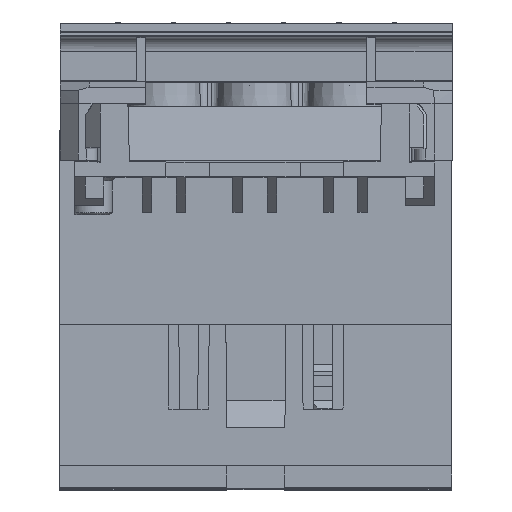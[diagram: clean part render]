
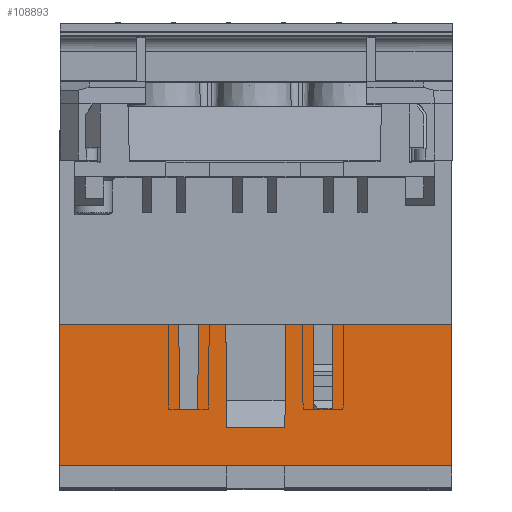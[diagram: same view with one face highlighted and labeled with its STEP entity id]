
A CAD part, top view. The second image highlights one B-rep face of the part: STEP entity #108893.
In plain terms, the highlighted planar face has unit normal (0, -0.009, 1).
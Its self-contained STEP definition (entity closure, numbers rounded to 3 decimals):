
#1182 = LINE ( 'NONE', #34883, #122617 ) ;
#2574 = LINE ( 'NONE', #78735, #124014 ) ;
#2596 = VERTEX_POINT ( 'NONE', #56435 ) ;
#2873 = EDGE_CURVE ( 'NONE', #144002, #73724, #103891, .T. ) ;
#7046 = EDGE_CURVE ( 'NONE', #45203, #143877, #110684, .T. ) ;
#11304 = VERTEX_POINT ( 'NONE', #101402 ) ;
#13662 = VERTEX_POINT ( 'NONE', #48834 ) ;
#16217 = DIRECTION ( 'NONE',  ( -1., 0., 0. ) ) ;
#16457 = VECTOR ( 'NONE', #39685, 1000. ) ;
#17540 = CARTESIAN_POINT ( 'NONE',  ( -10.602, -4., 200.004 ) ) ;
#17577 = LINE ( 'NONE', #67911, #48872 ) ;
#17665 = CARTESIAN_POINT ( 'NONE',  ( -27., -23.5, 199.833 ) ) ;
#18881 = CARTESIAN_POINT ( 'NONE',  ( -4.003, -18.18, 199.88 ) ) ;
#19024 = VECTOR ( 'NONE', #97658, 1000. ) ;
#19237 = EDGE_CURVE ( 'NONE', #113054, #120450, #124163, .T. ) ;
#21402 = CARTESIAN_POINT ( 'NONE',  ( -4., -23.5, 199.833 ) ) ;
#21763 = VECTOR ( 'NONE', #114277, 1000. ) ;
#21953 = EDGE_CURVE ( 'NONE', #144002, #13662, #121801, .T. ) ;
#23393 = ORIENTED_EDGE ( 'NONE', *, *, #133038, .T. ) ;
#25173 = AXIS2_PLACEMENT_3D ( 'NONE', #108950, #37930, #120250 ) ;
#26076 = VECTOR ( 'NONE', #37891, 1000. ) ;
#26979 = VERTEX_POINT ( 'NONE', #27962 ) ;
#27037 = CARTESIAN_POINT ( 'NONE',  ( -26., -4., 200.004 ) ) ;
#27962 = CARTESIAN_POINT ( 'NONE',  ( 27., -4., 200.004 ) ) ;
#34883 = CARTESIAN_POINT ( 'NONE',  ( -26., -4., 200.004 ) ) ;
#36316 = LINE ( 'NONE', #39766, #87815 ) ;
#37383 = CARTESIAN_POINT ( 'NONE',  ( 4., -23.5, 199.833 ) ) ;
#37891 = DIRECTION ( 'NONE',  ( 1., 0., 0. ) ) ;
#37930 = DIRECTION ( 'NONE',  ( 0., -0.009, 1. ) ) ;
#39187 = CARTESIAN_POINT ( 'NONE',  ( 8., -15.7, 199.902 ) ) ;
#39685 = DIRECTION ( 'NONE',  ( -0.009, 1., 0.009 ) ) ;
#39766 = CARTESIAN_POINT ( 'NONE',  ( -26., -4., 200.004 ) ) ;
#40627 = EDGE_CURVE ( 'NONE', #2596, #143877, #1182, .T. ) ;
#41086 = ORIENTED_EDGE ( 'NONE', *, *, #127214, .T. ) ;
#45203 = VERTEX_POINT ( 'NONE', #128610 ) ;
#45645 = EDGE_CURVE ( 'NONE', #140331, #120880, #64904, .T. ) ;
#48824 = LINE ( 'NONE', #69106, #81901 ) ;
#48834 = CARTESIAN_POINT ( 'NONE',  ( 4.003, -18.18, 199.88 ) ) ;
#48872 = VECTOR ( 'NONE', #55564, 1000. ) ;
#51404 = LINE ( 'NONE', #104003, #21763 ) ;
#52877 = DIRECTION ( 'NONE',  ( -0.009, -1., -0.009 ) ) ;
#55516 = VECTOR ( 'NONE', #52877, 1000. ) ;
#55564 = DIRECTION ( 'NONE',  ( 1., 0., 0. ) ) ;
#56435 = CARTESIAN_POINT ( 'NONE',  ( -27., -4., 200.004 ) ) ;
#57034 = LINE ( 'NONE', #86170, #128825 ) ;
#60205 = ORIENTED_EDGE ( 'NONE', *, *, #40627, .F. ) ;
#61237 = VECTOR ( 'NONE', #77040, 1000. ) ;
#62109 = CARTESIAN_POINT ( 'NONE',  ( -4.127, -4., 200.004 ) ) ;
#62479 = ORIENTED_EDGE ( 'NONE', *, *, #21953, .T. ) ;
#62495 = DIRECTION ( 'NONE',  ( 1., 0., 0. ) ) ;
#63625 = EDGE_CURVE ( 'NONE', #95977, #84990, #140563, .T. ) ;
#64904 = LINE ( 'NONE', #18881, #61237 ) ;
#66058 = VERTEX_POINT ( 'NONE', #17665 ) ;
#67698 = ORIENTED_EDGE ( 'NONE', *, *, #7046, .T. ) ;
#67911 = CARTESIAN_POINT ( 'NONE',  ( -26., -4., 200.004 ) ) ;
#69069 = ORIENTED_EDGE ( 'NONE', *, *, #148137, .T. ) ;
#69106 = CARTESIAN_POINT ( 'NONE',  ( -26., -15.7, 199.902 ) ) ;
#69715 = DIRECTION ( 'NONE',  ( -1., 0., 0. ) ) ;
#71979 = EDGE_CURVE ( 'NONE', #97381, #26979, #17577, .T. ) ;
#73724 = VERTEX_POINT ( 'NONE', #135865 ) ;
#73975 = EDGE_CURVE ( 'NONE', #84990, #26979, #2574, .T. ) ;
#77040 = DIRECTION ( 'NONE',  ( -0.009, 1., 0.009 ) ) ;
#77804 = DIRECTION ( 'NONE',  ( -0.009, -1., -0.009 ) ) ;
#78735 = CARTESIAN_POINT ( 'NONE',  ( 27., 18.5, 200.2 ) ) ;
#78752 = EDGE_CURVE ( 'NONE', #11304, #123286, #113880, .T. ) ;
#81901 = VECTOR ( 'NONE', #127246, 1000. ) ;
#82403 = ORIENTED_EDGE ( 'NONE', *, *, #78752, .T. ) ;
#82481 = CARTESIAN_POINT ( 'NONE',  ( 8., -15.7, 199.902 ) ) ;
#84200 = EDGE_CURVE ( 'NONE', #120450, #45203, #48824, .T. ) ;
#84245 = PLANE ( 'NONE',  #25173 ) ;
#84395 = EDGE_LOOP ( 'NONE', ( #60205, #93222, #23393, #117153, #86932, #111364, #87724, #41086, #82403, #89390, #117462, #62479, #69069, #88264, #87699, #102313, #113911, #67698 ) ) ;
#84990 = VERTEX_POINT ( 'NONE', #86771 ) ;
#86170 = CARTESIAN_POINT ( 'NONE',  ( -26., -18.18, 199.88 ) ) ;
#86334 = VERTEX_POINT ( 'NONE', #21402 ) ;
#86500 = CARTESIAN_POINT ( 'NONE',  ( -7.722, 16.2, 200.18 ) ) ;
#86771 = CARTESIAN_POINT ( 'NONE',  ( 27., -23.5, 199.833 ) ) ;
#86932 = ORIENTED_EDGE ( 'NONE', *, *, #63625, .T. ) ;
#87699 = ORIENTED_EDGE ( 'NONE', *, *, #92647, .F. ) ;
#87724 = ORIENTED_EDGE ( 'NONE', *, *, #71979, .F. ) ;
#87815 = VECTOR ( 'NONE', #144765, 1000. ) ;
#88137 = VECTOR ( 'NONE', #69715, 1000. ) ;
#88264 = ORIENTED_EDGE ( 'NONE', *, *, #45645, .T. ) ;
#88483 = VECTOR ( 'NONE', #129411, 1000. ) ;
#89390 = ORIENTED_EDGE ( 'NONE', *, *, #135110, .T. ) ;
#92647 = EDGE_CURVE ( 'NONE', #113054, #120880, #36316, .T. ) ;
#92851 = CARTESIAN_POINT ( 'NONE',  ( -10.5, -15.7, 199.902 ) ) ;
#93222 = ORIENTED_EDGE ( 'NONE', *, *, #99980, .T. ) ;
#94575 = DIRECTION ( 'NONE',  ( 1., 0., 0. ) ) ;
#94813 = VECTOR ( 'NONE', #77804, 1000. ) ;
#95977 = VERTEX_POINT ( 'NONE', #134479 ) ;
#97381 = VERTEX_POINT ( 'NONE', #98306 ) ;
#97658 = DIRECTION ( 'NONE',  ( 1., 0., 0. ) ) ;
#98306 = CARTESIAN_POINT ( 'NONE',  ( 10.602, -4., 200.004 ) ) ;
#98885 = CARTESIAN_POINT ( 'NONE',  ( -4.003, -18.18, 199.88 ) ) ;
#99980 = EDGE_CURVE ( 'NONE', #2596, #66058, #110467, .T. ) ;
#101402 = CARTESIAN_POINT ( 'NONE',  ( 10.5, -15.7, 199.902 ) ) ;
#101411 = CARTESIAN_POINT ( 'NONE',  ( 4.127, -4., 200.004 ) ) ;
#102313 = ORIENTED_EDGE ( 'NONE', *, *, #19237, .T. ) ;
#102401 = CARTESIAN_POINT ( 'NONE',  ( -8., -15.7, 199.902 ) ) ;
#102668 = EDGE_CURVE ( 'NONE', #86334, #95977, #51404, .T. ) ;
#103891 = LINE ( 'NONE', #27037, #116704 ) ;
#104003 = CARTESIAN_POINT ( 'NONE',  ( -26., -23.5, 199.833 ) ) ;
#108893 = ADVANCED_FACE ( 'NONE', ( #133673 ), #84245, .T. ) ;
#108950 = CARTESIAN_POINT ( 'NONE',  ( -26., 18.5, 200.2 ) ) ;
#110467 = LINE ( 'NONE', #125293, #119762 ) ;
#110684 = LINE ( 'NONE', #92851, #88483 ) ;
#111032 = CARTESIAN_POINT ( 'NONE',  ( 4.303, 16.2, 200.18 ) ) ;
#111364 = ORIENTED_EDGE ( 'NONE', *, *, #73975, .T. ) ;
#113054 = VERTEX_POINT ( 'NONE', #149833 ) ;
#113401 = DIRECTION ( 'NONE',  ( -0.009, -1., -0.009 ) ) ;
#113880 = LINE ( 'NONE', #128384, #88137 ) ;
#113911 = ORIENTED_EDGE ( 'NONE', *, *, #84200, .T. ) ;
#114277 = DIRECTION ( 'NONE',  ( 1., 0., 0. ) ) ;
#114519 = DIRECTION ( 'NONE',  ( 0., -1., -0.009 ) ) ;
#116704 = VECTOR ( 'NONE', #62495, 1000. ) ;
#117153 = ORIENTED_EDGE ( 'NONE', *, *, #102668, .T. ) ;
#117462 = ORIENTED_EDGE ( 'NONE', *, *, #2873, .F. ) ;
#117776 = LINE ( 'NONE', #39187, #16457 ) ;
#119762 = VECTOR ( 'NONE', #114519, 1000. ) ;
#120250 = DIRECTION ( 'NONE',  ( 0., -1., -0.009 ) ) ;
#120450 = VERTEX_POINT ( 'NONE', #102401 ) ;
#120880 = VERTEX_POINT ( 'NONE', #62109 ) ;
#121801 = LINE ( 'NONE', #111032, #55516 ) ;
#122617 = VECTOR ( 'NONE', #94575, 1000. ) ;
#123286 = VERTEX_POINT ( 'NONE', #82481 ) ;
#124014 = VECTOR ( 'NONE', #137913, 1000. ) ;
#124163 = LINE ( 'NONE', #86500, #94813 ) ;
#125293 = CARTESIAN_POINT ( 'NONE',  ( -27., 18.5, 200.2 ) ) ;
#127102 = LINE ( 'NONE', #137034, #149440 ) ;
#127214 = EDGE_CURVE ( 'NONE', #97381, #11304, #127102, .T. ) ;
#127246 = DIRECTION ( 'NONE',  ( -1., 0., 0. ) ) ;
#128384 = CARTESIAN_POINT ( 'NONE',  ( -26., -15.7, 199.902 ) ) ;
#128610 = CARTESIAN_POINT ( 'NONE',  ( -10.5, -15.7, 199.902 ) ) ;
#128825 = VECTOR ( 'NONE', #16217, 1000. ) ;
#129411 = DIRECTION ( 'NONE',  ( -0.009, 1., 0.009 ) ) ;
#133038 = EDGE_CURVE ( 'NONE', #66058, #86334, #138279, .T. ) ;
#133673 = FACE_OUTER_BOUND ( 'NONE', #84395, .T. ) ;
#134130 = CARTESIAN_POINT ( 'NONE',  ( -26., -23.5, 199.833 ) ) ;
#134479 = CARTESIAN_POINT ( 'NONE',  ( 4., -23.5, 199.833 ) ) ;
#135110 = EDGE_CURVE ( 'NONE', #123286, #73724, #117776, .T. ) ;
#135865 = CARTESIAN_POINT ( 'NONE',  ( 7.898, -4., 200.004 ) ) ;
#137034 = CARTESIAN_POINT ( 'NONE',  ( 10.778, 16.2, 200.18 ) ) ;
#137913 = DIRECTION ( 'NONE',  ( 0., 1., 0.009 ) ) ;
#138279 = LINE ( 'NONE', #37383, #26076 ) ;
#140331 = VERTEX_POINT ( 'NONE', #98885 ) ;
#140563 = LINE ( 'NONE', #134130, #19024 ) ;
#143877 = VERTEX_POINT ( 'NONE', #17540 ) ;
#144002 = VERTEX_POINT ( 'NONE', #101411 ) ;
#144765 = DIRECTION ( 'NONE',  ( 1., 0., 0. ) ) ;
#148137 = EDGE_CURVE ( 'NONE', #13662, #140331, #57034, .T. ) ;
#149440 = VECTOR ( 'NONE', #113401, 1000. ) ;
#149833 = CARTESIAN_POINT ( 'NONE',  ( -7.898, -4., 200.004 ) ) ;
